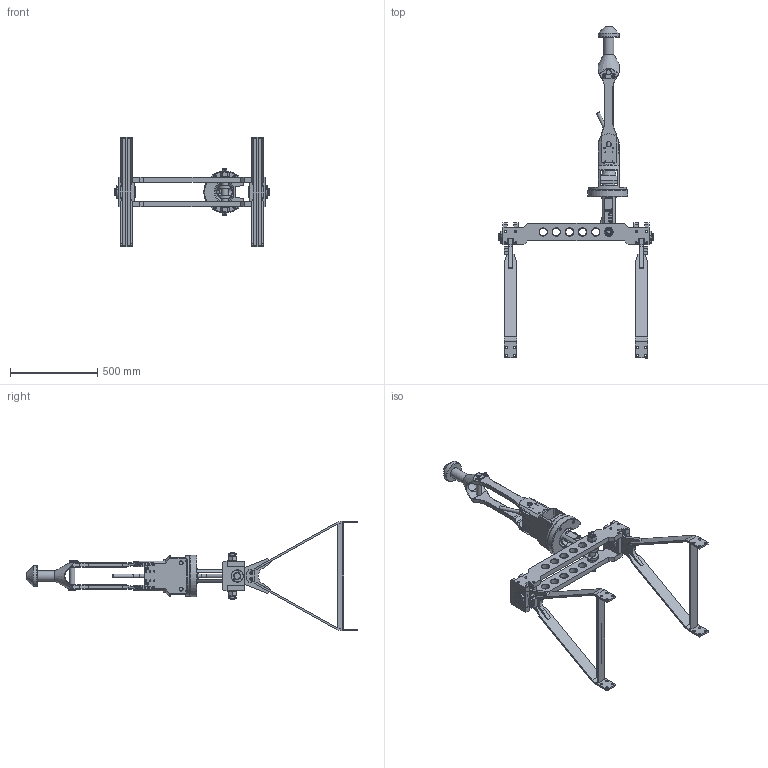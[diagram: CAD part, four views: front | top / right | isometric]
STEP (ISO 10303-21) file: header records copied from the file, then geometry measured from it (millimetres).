
FILE_DESCRIPTION(/* description */ ('6Te Latch with double bullet system'),/* implementation_level */ '2;1');
FILE_NAME(/* name */ 'C:\VaultWork\Designs\01 - Engineering\02 - Projects\1517000-1517999\1517137 - Macgregor Norway 6Te Latch with double bullet system\Design Pack\Models\To Client\148222_20.06.2022.stp',/* time_stamp */ '2022-06-20T12:36:49+02:00',/* author */ ('GTR'),/* organization */ (''),/* preprocessor_version */ 'ST-DEVELOPER v18.1',/* originating_system */ 'Autodesk Inventor 2022',/* authorisation */ '');
FILE_SCHEMA (('AUTOMOTIVE_DESIGN { 1 0 10303 214 3 1 1 }'));
Length unit declared in the file: millimetre
Products named in the file (13): 148222; ROV_1; 147153; 147154; 143003; ISO7380 M10x16 A2; 107862; 148280; 148327; 110907; 104982; 104974; 104981
Assembly tree (13 placements, depth 4):
  148222
    ROV_1
    147153
      147154
      143003
      ISO7380 M10x16 A2  x2
      107862
      148280
      148327
      110907
        104982
        104974
        104981
Bounding box: 891 x 1898 x 627.3 mm (x, y, z)
Volume: 18454707.2 mm3; surface area: 2753544.7 mm2
Topology: 45 solids, 49 shells, 1313 faces, 3355 edges, 2170 vertices
Faces by surface type: plane 686, cylinder 330, cone 152, bspline 103, torus 36, sphere 6
Full cylindrical faces by diameter (mm): 3.242 x8, 6.5 x2, 6.647 x22, 8.2 x2, 8.376 x6, 8.5 x8, 10 x2, 11 x18, 13 x32, 13.835 x4, 15 x4, 17.5 x2, 18 x8, 20 x3, 21 x1, 22 x4, 25 x2, 26.211 x2, 30 x9, 31 x2, 32 x1, 32.1 x2, 36 x2, 39.975 x4, 40 x4, 43 x1, 44 x6, 45 x12, 50 x2, 55 x1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
Entity records: 43227 total; most frequent: CARTESIAN_POINT 10705, ORIENTED_EDGE 6568, DIRECTION 6179, EDGE_CURVE 3284, VERTEX_POINT 2146, AXIS2_PLACEMENT_3D 2097, LINE 1985, VECTOR 1985
